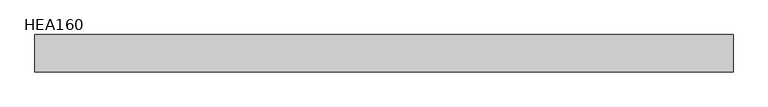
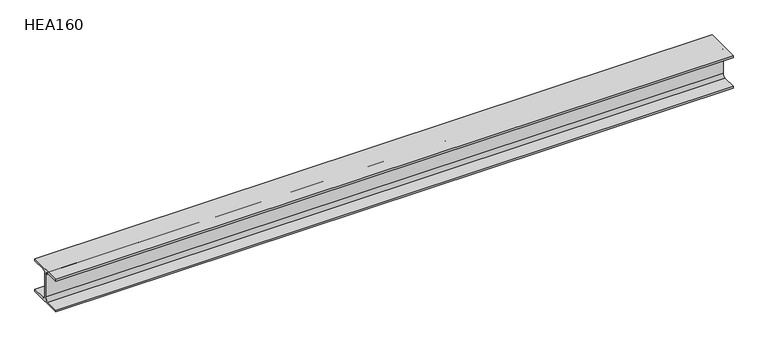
"""IFC4 building model written with IfcOpenShell, lengths in millimetres: beam geometry, HE-A : HEA160."""

from ifc_helpers import new_model, si_unit, point, frame, frame_2d, origin, place, context, project, spatial, polyline, circle_curve, trimmed, segment, composite_curve, outline, extrude, source, transform, mapped, element, save


def hea160_7110fd5d(model_context):
    return source(origin(), model_context, "Body", "SweptSolid", [
        extrude(outline(composite_curve([segment(polyline([(80.0, -67.0), (80.0, -76.0), (-80.0, -76.0), (-80.0, -67.0), (-18.0, -67.0)]), True, "CONTINUOUS"), segment(trimmed(circle_curve(frame_2d((-18.0, -52.0)), 15.0), [point((-18.0, -67.0))], [point((-3.0, -52.0))], True, "CARTESIAN"), True, "CONTINUOUS"), segment(polyline([(-3.0, -52.0), (-3.0, 52.0)]), True, "CONTINUOUS"), segment(trimmed(circle_curve(frame_2d((-18.0, 52.0)), 15.0), [point((-3.0, 52.0))], [point((-18.0, 67.0))], True, "CARTESIAN"), True, "CONTINUOUS"), segment(polyline([(-18.0, 67.0), (-80.0, 67.0), (-80.0, 76.0), (80.0, 76.0), (80.0, 67.0), (18.0, 67.0)]), True, "CONTINUOUS"), segment(trimmed(circle_curve(frame_2d((18.0, 52.0)), 15.0), [point((18.0, 67.0))], [point((3.0, 52.0))], True, "CARTESIAN"), True, "CONTINUOUS"), segment(polyline([(3.0, 52.0), (3.0, -52.0)]), True, "CONTINUOUS"), segment(trimmed(circle_curve(frame_2d((18.0, -52.0)), 15.0), [point((3.0, -52.0))], [point((18.0, -67.0))], True, "CARTESIAN"), True, "CONTINUOUS"), segment(polyline([(18.0, -67.0), (80.0, -67.0)]), True, "CONTINUOUS")], self_intersect=False)), frame((-1517.5, 0.0, 0.0), z_axis=(1.0, 0.0, 0.0), x_axis=(0.0, 1.0, 0.0)), (0.0, 0.0, 1.0), 2993.4),
    ])


if __name__ == "__main__":
    model = new_model("IFC4")
    model_context = context("Model", 3, world=origin())
    ifc_project = project(units=[si_unit("LENGTHUNIT", "METRE", prefix="MILLI")], contexts=[model_context])
    site = spatial("IfcSite", under=ifc_project)
    building = spatial("IfcBuilding", under=site)
    placement = place(None, origin())
    hea160_shape = hea160_7110fd5d(model_context)
    element("IfcBeam", 1, ObjectType="HE-A : HEA160", at=placement, inside=building, context=model_context, shape_type="MappedRepresentation", body=[
        mapped(hea160_shape, transform((0.0, 0.0, 0.0), x_axis=(1.0, 0.0, 0.0), y_axis=(0.0, 1.0, 0.0), z_axis=(0.0, 0.0, 1.0))),
    ])
    save(model, "model.ifc")
